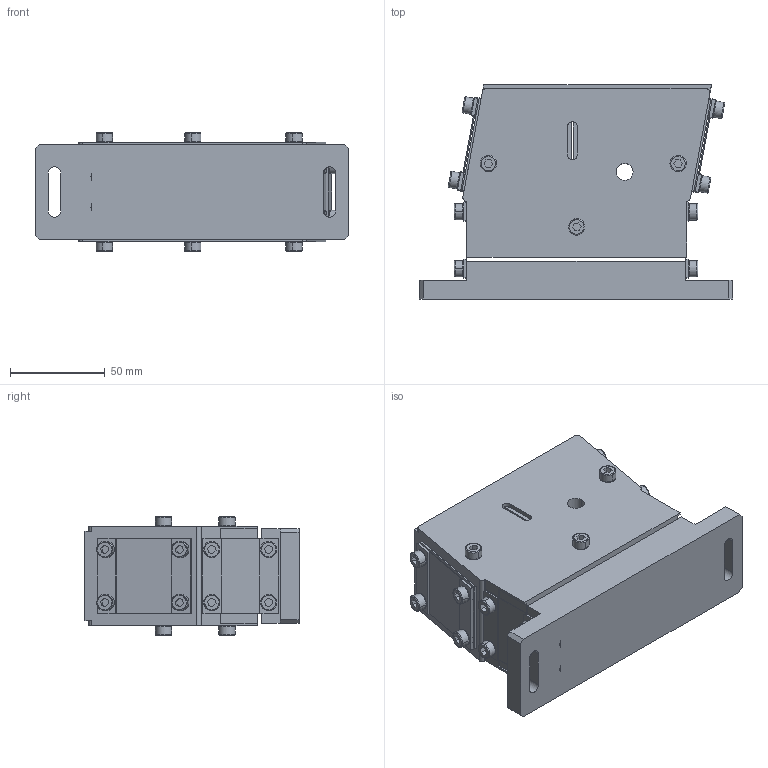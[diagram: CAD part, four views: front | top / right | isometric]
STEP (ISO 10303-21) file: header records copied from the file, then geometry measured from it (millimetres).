
FILE_DESCRIPTION (( 'STEP AP203' ), '1' );
FILE_NAME ('ZA120-0.STEP', '2025-07-18T07:05:35', ( '' ), ( '' ), 'SwSTEP 2.0', 'SolidWorks 2022', '' );
FILE_SCHEMA (( 'CONFIG_CONTROL_DESIGN' ));
Length unit declared in the file: millimetre
Products named in the file (1): ZA120-0
Bounding box: 165 x 112.89 x 62.6 mm (x, y, z)
Volume: 704020.1 mm3; surface area: 104626.1 mm2
Topology: 20 solids, 28 shells, 785 faces, 1944 edges, 1282 vertices
Faces by surface type: plane 381, cylinder 290, bspline 104, cone 10
Entity records: 26474 total; most frequent: CARTESIAN_POINT 7494, DIRECTION 4008, ORIENTED_EDGE 3888, EDGE_CURVE 1944, AXIS2_PLACEMENT_3D 1492, VERTEX_POINT 1282, LINE 1024, VECTOR 1024
